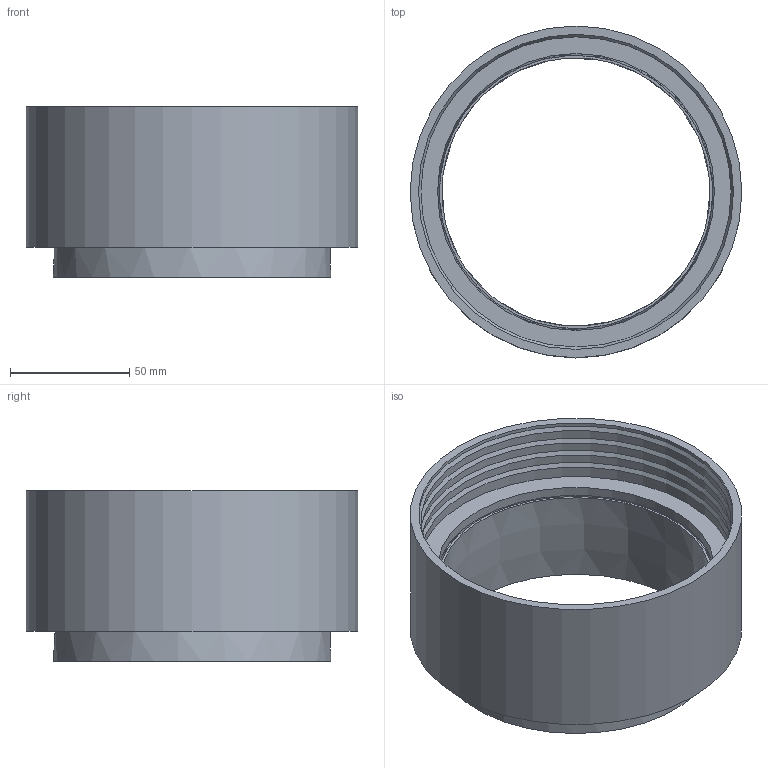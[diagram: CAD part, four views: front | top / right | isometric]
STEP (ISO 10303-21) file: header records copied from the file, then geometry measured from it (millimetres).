
FILE_DESCRIPTION(/* description */ (''),/* implementation_level */ '2;1');
FILE_NAME(/* name */ 'Z:\Geberit\Export\NewStep\359142.stp',/* time_stamp */ '2014-04-01T20:55:01+02:00',/* author */ ('ML'),/* organization */ (''),/* preprocessor_version */ 'ST-DEVELOPER v15.2',/* originating_system */ 'Autodesk Inventor 2014',/* authorisation */ '');
FILE_SCHEMA (('AUTOMOTIVE_DESIGN { 1 0 10303 214 3 1 1 }'));
Length unit declared in the file: millimetre
Products named in the file (3): 887356; 887358; 359142
Bounding box: 139 x 139 x 71.5 mm (x, y, z)
Volume: 167087.5 mm3; surface area: 91958.1 mm2
Topology: 2 solids, 2 shells, 36 faces, 58 edges, 36 vertices
Faces by surface type: plane 14, cylinder 12, cone 10
Full cylindrical faces by diameter (mm): 116 x1, 123 x5, 132 x5, 139 x1
Entity records: 835 total; most frequent: DIRECTION 154, CARTESIAN_POINT 113, AXIS2_PLACEMENT_3D 77, EDGE_LOOP 72, ORIENTED_EDGE 72, FACE_BOUND 44, STYLED_ITEM 38, CIRCLE 36
